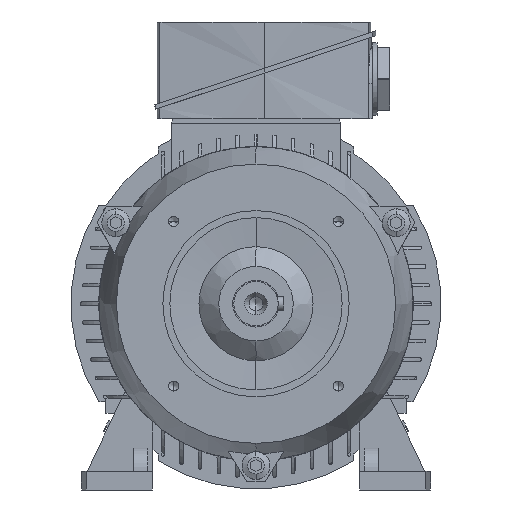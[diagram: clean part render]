
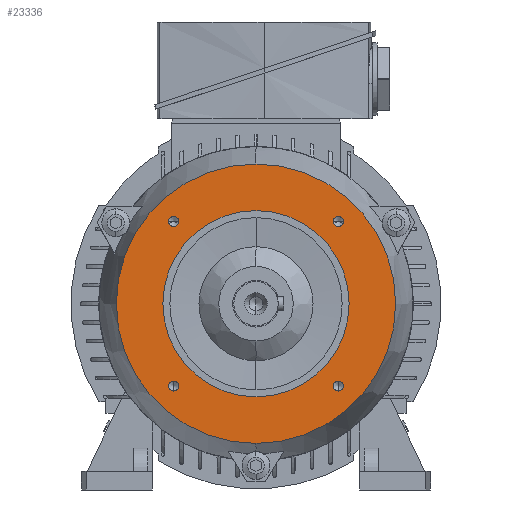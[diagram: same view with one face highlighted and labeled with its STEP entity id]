
A CAD part, left-side view. The second image highlights one B-rep face of the part: STEP entity #23336.
In plain terms, the highlighted planar face has unit normal (-1, 0, 0).
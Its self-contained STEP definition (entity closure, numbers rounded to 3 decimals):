
#19 = CARTESIAN_POINT ( 'NONE',  ( -27., 35.355, 35.355 ) ) ;
#419 = FACE_BOUND ( 'NONE', #23681, .T. ) ;
#471 = DIRECTION ( 'NONE',  ( 1., 0., 0. ) ) ;
#526 = FACE_BOUND ( 'NONE', #1263, .T. ) ;
#596 = FACE_BOUND ( 'NONE', #31802, .T. ) ;
#616 = DIRECTION ( 'NONE',  ( 0., 0., -1. ) ) ;
#658 = FACE_OUTER_BOUND ( 'NONE', #9131, .T. ) ;
#696 = FACE_BOUND ( 'NONE', #21389, .T. ) ;
#896 = FACE_BOUND ( 'NONE', #8217, .T. ) ;
#1263 = EDGE_LOOP ( 'NONE', ( #7288, #7316 ) ) ;
#1569 = CARTESIAN_POINT ( 'NONE',  ( -27., -35.355, -35.355 ) ) ;
#1903 = DIRECTION ( 'NONE',  ( 1., 0., 0. ) ) ;
#1926 = DIRECTION ( 'NONE',  ( 1., 0., 0. ) ) ;
#1984 = DIRECTION ( 'NONE',  ( 0., 0., 1. ) ) ;
#1985 = DIRECTION ( 'NONE',  ( 0., 0., -1. ) ) ;
#2012 = DIRECTION ( 'NONE',  ( 1., 0., 0. ) ) ;
#2059 = CARTESIAN_POINT ( 'NONE',  ( -27., 0., 0. ) ) ;
#2349 = CARTESIAN_POINT ( 'NONE',  ( -27., -35.355, -35.355 ) ) ;
#3242 = DIRECTION ( 'NONE',  ( 0., 0., -1. ) ) ;
#3262 = AXIS2_PLACEMENT_3D ( 'NONE', #4181, #4118, #4084 ) ;
#3269 = DIRECTION ( 'NONE',  ( 1., 0., 0. ) ) ;
#3305 = CARTESIAN_POINT ( 'NONE',  ( -27., 0., 0. ) ) ;
#3347 = DIRECTION ( 'NONE',  ( -1., 0., 0. ) ) ;
#3613 = ORIENTED_EDGE ( 'NONE', *, *, #21638, .F. ) ;
#3625 = CIRCLE ( 'NONE', #6290, 2.15 ) ;
#3771 = ORIENTED_EDGE ( 'NONE', *, *, #27307, .F. ) ;
#3932 = VERTEX_POINT ( 'NONE', #5419 ) ;
#4002 = AXIS2_PLACEMENT_3D ( 'NONE', #14539, #14493, #14472 ) ;
#4084 = DIRECTION ( 'NONE',  ( 0., 0., -1. ) ) ;
#4118 = DIRECTION ( 'NONE',  ( 1., 0., 0. ) ) ;
#4145 = CARTESIAN_POINT ( 'NONE',  ( -27., 0., 60. ) ) ;
#4181 = CARTESIAN_POINT ( 'NONE',  ( -27., 35.355, -35.355 ) ) ;
#4526 = ORIENTED_EDGE ( 'NONE', *, *, #29978, .T. ) ;
#4552 = VERTEX_POINT ( 'NONE', #20647 ) ;
#4928 = AXIS2_PLACEMENT_3D ( 'NONE', #24166, #24131, #24098 ) ;
#5127 = VERTEX_POINT ( 'NONE', #13626 ) ;
#5168 = CIRCLE ( 'NONE', #22129, 40. ) ;
#5419 = CARTESIAN_POINT ( 'NONE',  ( -27., 35.355, -37.505 ) ) ;
#5532 = ORIENTED_EDGE ( 'NONE', *, *, #16781, .T. ) ;
#5695 = AXIS2_PLACEMENT_3D ( 'NONE', #1569, #1903, #1985 ) ;
#5760 = PLANE ( 'NONE',  #32291 ) ;
#6218 = ORIENTED_EDGE ( 'NONE', *, *, #21348, .T. ) ;
#6290 = AXIS2_PLACEMENT_3D ( 'NONE', #23159, #23090, #23088 ) ;
#6488 = CIRCLE ( 'NONE', #3262, 2.15 ) ;
#6583 = ORIENTED_EDGE ( 'NONE', *, *, #20520, .T. ) ;
#6658 = ORIENTED_EDGE ( 'NONE', *, *, #14649, .T. ) ;
#7187 = AXIS2_PLACEMENT_3D ( 'NONE', #13827, #13819, #13783 ) ;
#7288 = ORIENTED_EDGE ( 'NONE', *, *, #32491, .T. ) ;
#7316 = ORIENTED_EDGE ( 'NONE', *, *, #21945, .T. ) ;
#7882 = ORIENTED_EDGE ( 'NONE', *, *, #8660, .T. ) ;
#7998 = ORIENTED_EDGE ( 'NONE', *, *, #21047, .T. ) ;
#8217 = EDGE_LOOP ( 'NONE', ( #5532, #6218 ) ) ;
#8660 = EDGE_CURVE ( 'NONE', #33140, #27861, #10547, .T. ) ;
#9131 = EDGE_LOOP ( 'NONE', ( #3613, #3771 ) ) ;
#9261 = VERTEX_POINT ( 'NONE', #29035 ) ;
#10547 = CIRCLE ( 'NONE', #27653, 2.15 ) ;
#10599 = CIRCLE ( 'NONE', #16101, 2.15 ) ;
#10866 = AXIS2_PLACEMENT_3D ( 'NONE', #19, #471, #32851 ) ;
#11323 = DIRECTION ( 'NONE',  ( 0., 0., -1. ) ) ;
#11354 = DIRECTION ( 'NONE',  ( 1., 0., 0. ) ) ;
#11395 = CARTESIAN_POINT ( 'NONE',  ( -27., -35.355, 35.355 ) ) ;
#11484 = VERTEX_POINT ( 'NONE', #16947 ) ;
#11544 = CARTESIAN_POINT ( 'NONE',  ( -27., -35.355, -37.505 ) ) ;
#11630 = CIRCLE ( 'NONE', #19562, 2.15 ) ;
#13626 = CARTESIAN_POINT ( 'NONE',  ( -27., 35.355, -33.205 ) ) ;
#13783 = DIRECTION ( 'NONE',  ( 0., 0., 1. ) ) ;
#13819 = DIRECTION ( 'NONE',  ( 1., 0., 0. ) ) ;
#13827 = CARTESIAN_POINT ( 'NONE',  ( -27., 0., 0. ) ) ;
#13896 = CIRCLE ( 'NONE', #4002, 60. ) ;
#13982 = DIRECTION ( 'NONE',  ( 0., 0., 1. ) ) ;
#14097 = CARTESIAN_POINT ( 'NONE',  ( -27., 0., 50. ) ) ;
#14472 = DIRECTION ( 'NONE',  ( 0., 0., -1. ) ) ;
#14493 = DIRECTION ( 'NONE',  ( 1., 0., 0. ) ) ;
#14539 = CARTESIAN_POINT ( 'NONE',  ( -27., 0., 0. ) ) ;
#14649 = EDGE_CURVE ( 'NONE', #9261, #22822, #5168, .T. ) ;
#15536 = EDGE_CURVE ( 'NONE', #17254, #4552, #11630, .T. ) ;
#16101 = AXIS2_PLACEMENT_3D ( 'NONE', #11395, #11354, #11323 ) ;
#16781 = EDGE_CURVE ( 'NONE', #18307, #11484, #10599, .T. ) ;
#16947 = CARTESIAN_POINT ( 'NONE',  ( -27., -35.355, 37.505 ) ) ;
#17254 = VERTEX_POINT ( 'NONE', #30994 ) ;
#18307 = VERTEX_POINT ( 'NONE', #23009 ) ;
#18417 = AXIS2_PLACEMENT_3D ( 'NONE', #3305, #3269, #3242 ) ;
#19562 = AXIS2_PLACEMENT_3D ( 'NONE', #29102, #29008, #28947 ) ;
#20520 = EDGE_CURVE ( 'NONE', #22822, #9261, #23816, .T. ) ;
#20647 = CARTESIAN_POINT ( 'NONE',  ( -27., 35.355, 33.205 ) ) ;
#21047 = EDGE_CURVE ( 'NONE', #27861, #33140, #28685, .T. ) ;
#21348 = EDGE_CURVE ( 'NONE', #11484, #18307, #21808, .T. ) ;
#21389 = EDGE_LOOP ( 'NONE', ( #4526, #29210 ) ) ;
#21638 = EDGE_CURVE ( 'NONE', #22082, #29553, #13896, .T. ) ;
#21808 = CIRCLE ( 'NONE', #4928, 2.15 ) ;
#21945 = EDGE_CURVE ( 'NONE', #5127, #3932, #6488, .T. ) ;
#22082 = VERTEX_POINT ( 'NONE', #26808 ) ;
#22129 = AXIS2_PLACEMENT_3D ( 'NONE', #2059, #2012, #1984 ) ;
#22822 = VERTEX_POINT ( 'NONE', #25020 ) ;
#22947 = CIRCLE ( 'NONE', #18417, 60. ) ;
#23009 = CARTESIAN_POINT ( 'NONE',  ( -27., -35.355, 33.205 ) ) ;
#23088 = DIRECTION ( 'NONE',  ( 0., 0., -1. ) ) ;
#23090 = DIRECTION ( 'NONE',  ( 1., 0., 0. ) ) ;
#23159 = CARTESIAN_POINT ( 'NONE',  ( -27., 35.355, -35.355 ) ) ;
#23336 = ADVANCED_FACE ( 'NONE', ( #596, #658, #696, #526, #419, #896 ), #5760, .T. ) ;
#23681 = EDGE_LOOP ( 'NONE', ( #7882, #7998 ) ) ;
#23816 = CIRCLE ( 'NONE', #7187, 40. ) ;
#24098 = DIRECTION ( 'NONE',  ( 0., 0., -1. ) ) ;
#24131 = DIRECTION ( 'NONE',  ( 1., 0., 0. ) ) ;
#24166 = CARTESIAN_POINT ( 'NONE',  ( -27., -35.355, 35.355 ) ) ;
#25020 = CARTESIAN_POINT ( 'NONE',  ( -27., 0., -40. ) ) ;
#26808 = CARTESIAN_POINT ( 'NONE',  ( -27., 0., -60. ) ) ;
#26859 = CIRCLE ( 'NONE', #10866, 2.15 ) ;
#27307 = EDGE_CURVE ( 'NONE', #29553, #22082, #22947, .T. ) ;
#27653 = AXIS2_PLACEMENT_3D ( 'NONE', #2349, #1926, #616 ) ;
#27861 = VERTEX_POINT ( 'NONE', #32881 ) ;
#28685 = CIRCLE ( 'NONE', #5695, 2.15 ) ;
#28947 = DIRECTION ( 'NONE',  ( 0., 0., -1. ) ) ;
#29008 = DIRECTION ( 'NONE',  ( 1., 0., 0. ) ) ;
#29035 = CARTESIAN_POINT ( 'NONE',  ( -27., 0., 40. ) ) ;
#29102 = CARTESIAN_POINT ( 'NONE',  ( -27., 35.355, 35.355 ) ) ;
#29210 = ORIENTED_EDGE ( 'NONE', *, *, #15536, .T. ) ;
#29553 = VERTEX_POINT ( 'NONE', #4145 ) ;
#29978 = EDGE_CURVE ( 'NONE', #4552, #17254, #26859, .T. ) ;
#30994 = CARTESIAN_POINT ( 'NONE',  ( -27., 35.355, 37.505 ) ) ;
#31802 = EDGE_LOOP ( 'NONE', ( #6658, #6583 ) ) ;
#32291 = AXIS2_PLACEMENT_3D ( 'NONE', #14097, #3347, #13982 ) ;
#32491 = EDGE_CURVE ( 'NONE', #3932, #5127, #3625, .T. ) ;
#32851 = DIRECTION ( 'NONE',  ( 0., 0., -1. ) ) ;
#32881 = CARTESIAN_POINT ( 'NONE',  ( -27., -35.355, -33.205 ) ) ;
#33140 = VERTEX_POINT ( 'NONE', #11544 ) ;
